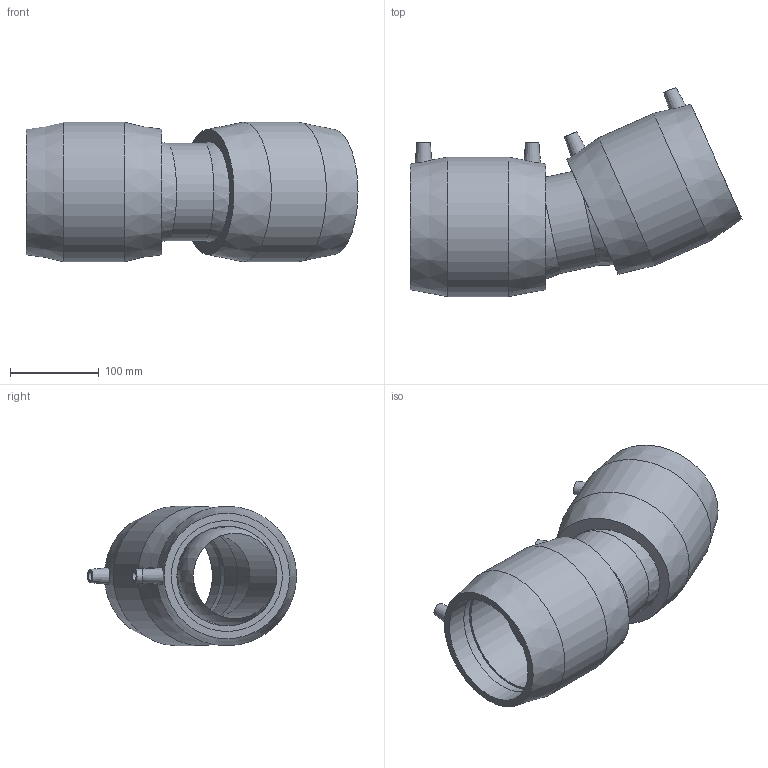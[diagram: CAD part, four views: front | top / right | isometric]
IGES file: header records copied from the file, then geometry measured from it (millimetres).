
Global section: file name: 4947C4125.ipt; native system: Autodesk Inventor 2015; preprocessor: unknown; author: KIM; date: 20171106.094201; units: millimetre
Bounding box: 373.65 x 235.44 x 157 mm (x, y, z)
Volume: 2477621.5 mm3; surface area: 361542.4 mm2
Topology: 1 solids, 1 shells, 50 faces, 114 edges, 78 vertices
Faces by surface type: plane 20, revolution 13, cone 8, cylinder 7, sphere 2
Full cylindrical faces by diameter (mm): 4 x4, 109.505 x1, 157 x2
